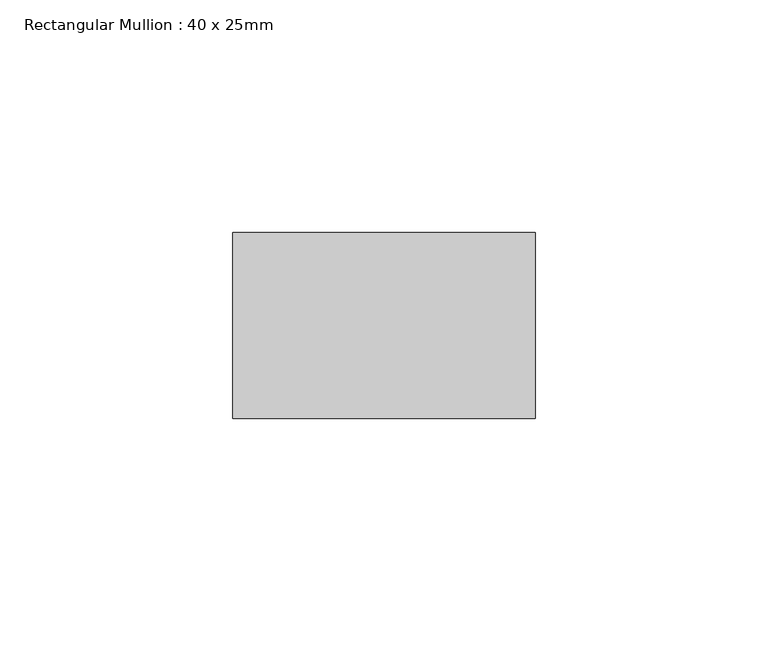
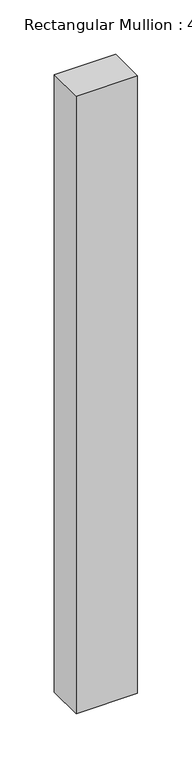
"""IFC4 building model written with IfcOpenShell, lengths in millimetres: member geometry, Rectangular Mullion : 40 x 25mm."""

from ifc_helpers import new_model, si_unit, frame, origin, place, context, project, spatial, polyline, outline, extrude, source, transform, mapped, element, save


def rectangular_mullion_40_x_25mm_c4acede6(model_context):
    return source(origin(), model_context, "Body", "SweptSolid", [
        extrude(outline(polyline([(0.0, -20.0), (0.0, -60.0), (-65.0, -60.0), (-65.0, -20.0), (0.0, -20.0)])), frame((0.0, 0.0, -693.5855623), z_axis=(0.0, 0.0, 1.0), x_axis=(1.0, 0.0, 0.0)), (0.0, 0.0, 1.0), 693.5855623),
    ])


if __name__ == "__main__":
    model = new_model("IFC4")
    model_context = context("Model", 3, world=origin())
    ifc_project = project(units=[si_unit("LENGTHUNIT", "METRE", prefix="MILLI")], contexts=[model_context])
    site = spatial("IfcSite", under=ifc_project)
    building = spatial("IfcBuilding", under=site)
    placement = place(None, origin())
    rectangular_mullion_40_x_25mm_shape = rectangular_mullion_40_x_25mm_c4acede6(model_context)
    element("IfcMember", 1, ObjectType="Rectangular Mullion : 40 x 25mm", at=placement, inside=building, context=model_context, shape_type="MappedRepresentation", body=[
        mapped(rectangular_mullion_40_x_25mm_shape, transform((0.0, 0.0, 0.0), x_axis=(1.0, 0.0, 0.0), y_axis=(0.0, 1.0, 0.0), z_axis=(0.0, 0.0, 1.0))),
    ])
    save(model, "model.ifc")
